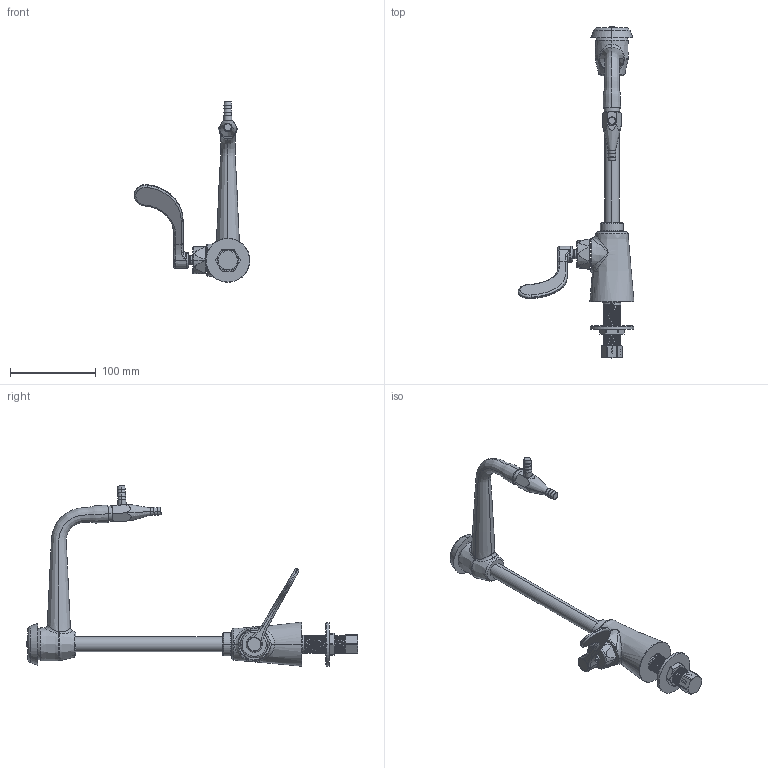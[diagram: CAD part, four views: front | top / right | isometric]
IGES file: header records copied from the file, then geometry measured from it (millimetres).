
Start section:  PTC IGES file: LWS2-C35-G.igs
Global section: file name: LWS2-C35-G.igs; native system: Creo Parametric by PTC Inc.; preprocessor: 2017260; author: usch_engrender; organization: Unknown; date: 20190828.155611; units: inch
Bounding box: 135.26 x 387.78 x 210.89 mm (x, y, z)
Surface area: 75616.6 mm2 (no closed solid volume)
Topology: 0 solids, 24 shells, 315 faces, 798 edges, 505 vertices
Faces by surface type: revolution 217, bspline 98
